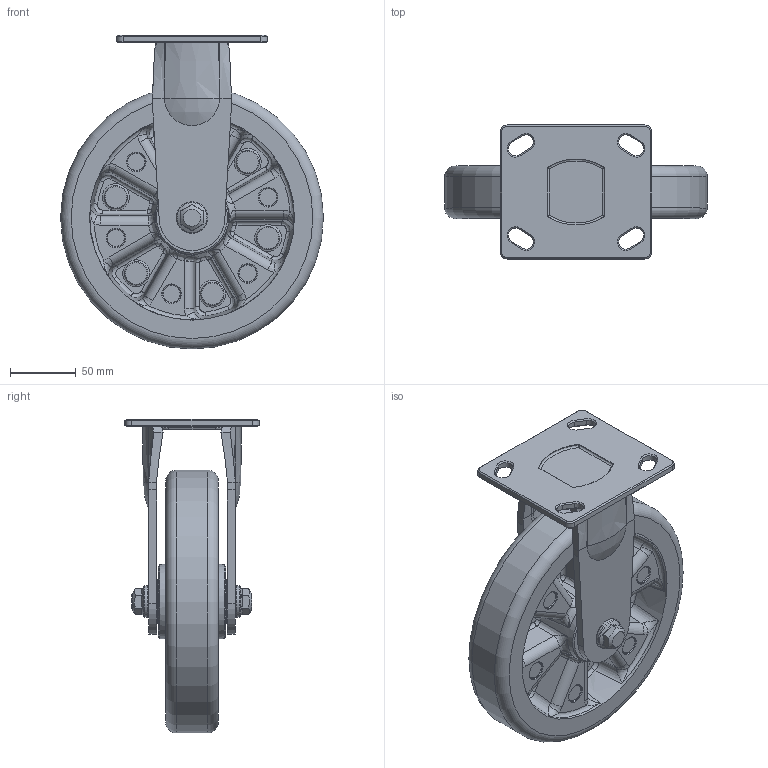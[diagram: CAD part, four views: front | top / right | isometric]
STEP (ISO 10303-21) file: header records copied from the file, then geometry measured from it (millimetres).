
FILE_DESCRIPTION((''),'2;1');
FILE_NAME('C:\Documents and Settings\Administrator\바탕 화면\PM-200\PM-200A-RF-MUD.stp','2012-02-06T18:40:27',('Administrator'),(''),'Autodesk Inventor 2009','Autodesk Inventor 2009','');
FILE_SCHEMA(('AUTOMOTIVE_DESIGN { 1 0 10303 214 1 1 1 1 }'));
Length unit declared in the file: millimetre
Products named in the file (1): PM-200A-RF-MUD
Bounding box: 200 x 102 x 239 mm (x, y, z)
Volume: 935069.9 mm3; surface area: 202662.8 mm2
Topology: 1 solids, 3 shells, 720 faces, 1664 edges, 937 vertices
Faces by surface type: bspline 314, plane 183, cylinder 102, cone 69, torus 48, sphere 4
Full cylindrical faces by diameter (mm): 12 x1, 15 x5, 15.2 x3, 21.667 x4, 24 x3, 28.333 x4, 30 x1, 35 x2, 200 x1
Entity records: 39506 total; most frequent: CARTESIAN_POINT 25839, ORIENTED_EDGE 2920, DIRECTION 2362, EDGE_CURVE 1460, AXIS2_PLACEMENT_3D 1021, VERTEX_POINT 921, EDGE_LOOP 909, FACE_OUTER_BOUND 720
